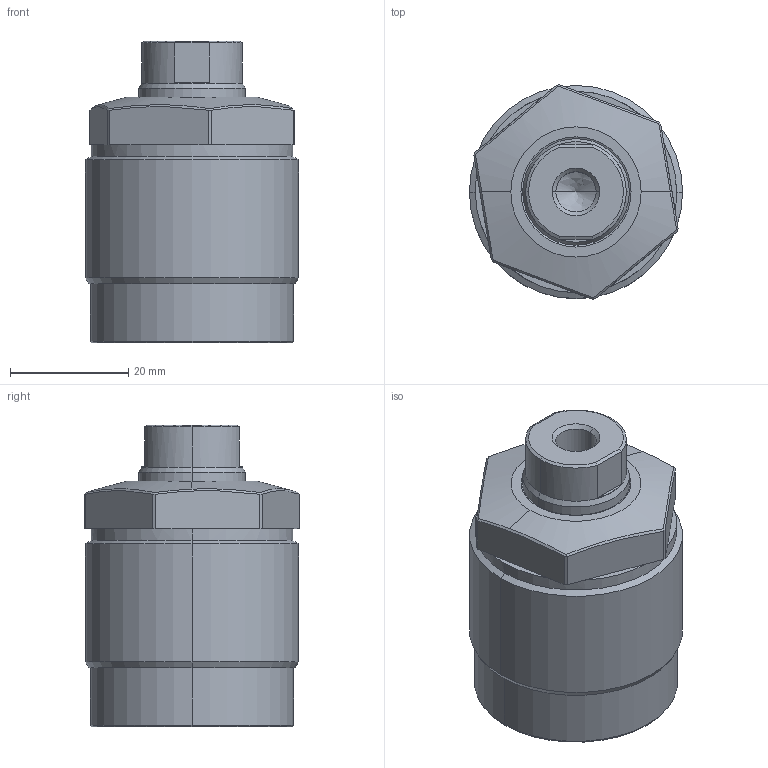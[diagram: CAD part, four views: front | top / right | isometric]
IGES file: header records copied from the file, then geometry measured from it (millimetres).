
Start section: SolidWorks IGES file using analytic representation for surfaces
Global section: file name: F:\THREADED BODY PUSHER-STD\TO3C-M364-S.IGS; native system: SolidWorks 2019; preprocessor: SolidWorks 2019; author: ADMIN; date: 200710.091100; units: millimetre
Bounding box: 36 x 36.23 x 51 mm (x, y, z)
Volume: 39210.7 mm3; surface area: 10437.4 mm2
Topology: 2 solids, 2 shells, 94 faces, 198 edges, 112 vertices
Faces by surface type: plane 45, revolution 43, bspline 6
